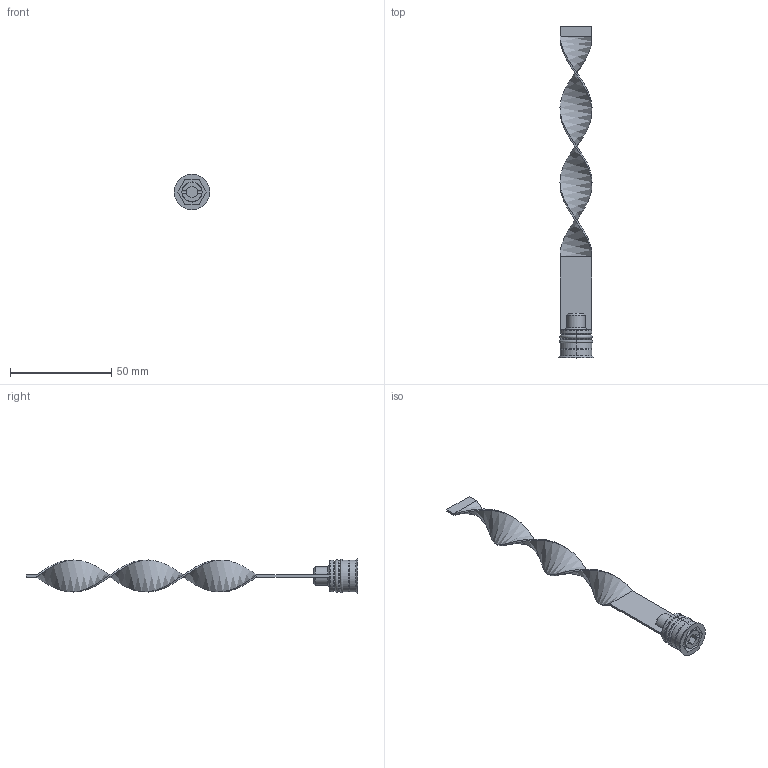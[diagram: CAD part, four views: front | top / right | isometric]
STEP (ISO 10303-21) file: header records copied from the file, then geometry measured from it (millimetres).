
FILE_DESCRIPTION (( 'STEP AP203' ), '1' );
FILE_NAME ('RLS-16Fx150.STEP', '2015-12-09T14:45:22', ( 'Balzi' ), ( '' ), 'SwSTEP 2.0', 'SolidWorks 2015', '' );
FILE_SCHEMA (( 'CONFIG_CONTROL_DESIGN' ));
Length unit declared in the file: millimetre
Products named in the file (1): RLS-16Fx150
Bounding box: 17.5 x 164 x 17.5 mm (x, y, z)
Volume: 5299 mm3; surface area: 7071.5 mm2
Topology: 1 solids, 1 shells, 83 faces, 193 edges, 117 vertices
Faces by surface type: plane 35, cone 19, cylinder 17, torus 8, bspline 4
Entity records: 3497 total; most frequent: CARTESIAN_POINT 1540, DIRECTION 402, ORIENTED_EDGE 386, EDGE_CURVE 193, AXIS2_PLACEMENT_3D 151, VERTEX_POINT 117, LINE 100, VECTOR 100
